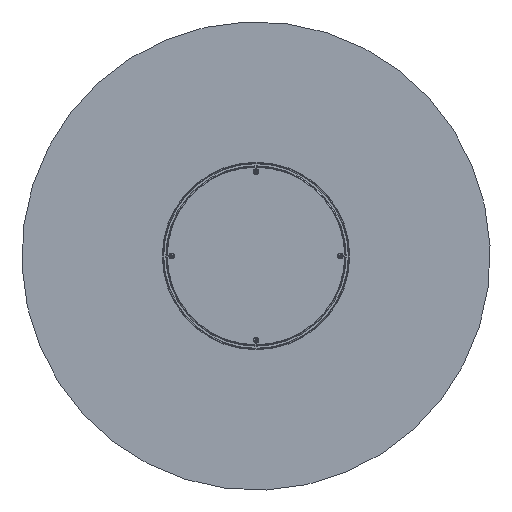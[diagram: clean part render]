
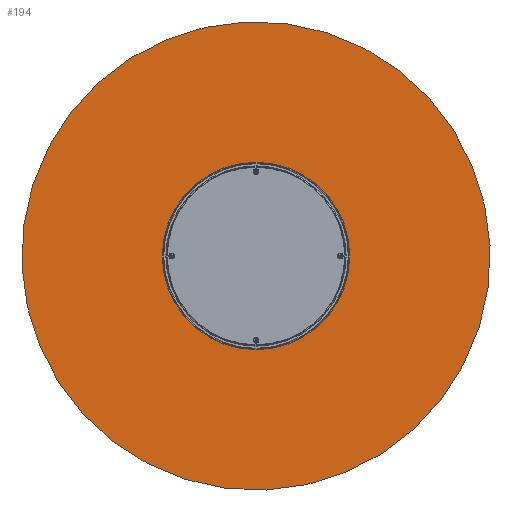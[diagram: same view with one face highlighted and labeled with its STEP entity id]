
A CAD part, front view. The second image highlights one B-rep face of the part: STEP entity #194.
In plain terms, the highlighted planar face has unit normal (0, -1, 0).
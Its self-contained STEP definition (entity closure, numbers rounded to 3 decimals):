
#97 = ORIENTED_EDGE ( 'NONE', *, *, #986, .T. ) ;
#194 = ADVANCED_FACE ( 'NONE', ( #2432 ), #1946, .T. ) ;
#209 = DIRECTION ( 'NONE',  ( 0., -1., 0. ) ) ;
#521 = EDGE_LOOP ( 'NONE', ( #97, #976 ) ) ;
#818 = EDGE_CURVE ( 'NONE', #2881, #5490, #3455, .T. ) ;
#976 = ORIENTED_EDGE ( 'NONE', *, *, #818, .T. ) ;
#986 = EDGE_CURVE ( 'NONE', #5490, #2881, #1468, .T. ) ;
#1099 = DIRECTION ( 'NONE',  ( 0., 0., -1. ) ) ;
#1443 = CARTESIAN_POINT ( 'NONE',  ( 0., 0., 500. ) ) ;
#1468 = CIRCLE ( 'NONE', #3608, 500. ) ;
#1477 = CARTESIAN_POINT ( 'NONE',  ( 0., 0., 0. ) ) ;
#1865 = AXIS2_PLACEMENT_3D ( 'NONE', #3749, #2346, #4201 ) ;
#1946 = PLANE ( 'NONE',  #1865 ) ;
#2346 = DIRECTION ( 'NONE',  ( 0., -1., 0. ) ) ;
#2432 = FACE_OUTER_BOUND ( 'NONE', #521, .T. ) ;
#2600 = CARTESIAN_POINT ( 'NONE',  ( 0., 0., 0. ) ) ;
#2881 = VERTEX_POINT ( 'NONE', #1443 ) ;
#3062 = DIRECTION ( 'NONE',  ( 0., -1., 0. ) ) ;
#3090 = DIRECTION ( 'NONE',  ( 0., 0., -1. ) ) ;
#3455 = CIRCLE ( 'NONE', #4968, 500. ) ;
#3608 = AXIS2_PLACEMENT_3D ( 'NONE', #2600, #3062, #3090 ) ;
#3749 = CARTESIAN_POINT ( 'NONE',  ( 0., 0., 0. ) ) ;
#3917 = CARTESIAN_POINT ( 'NONE',  ( 0., 0., -500. ) ) ;
#4201 = DIRECTION ( 'NONE',  ( 0., 0., -1. ) ) ;
#4968 = AXIS2_PLACEMENT_3D ( 'NONE', #1477, #209, #1099 ) ;
#5490 = VERTEX_POINT ( 'NONE', #3917 ) ;
